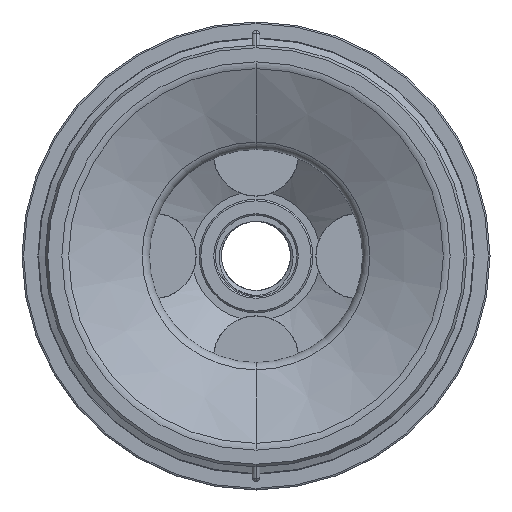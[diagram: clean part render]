
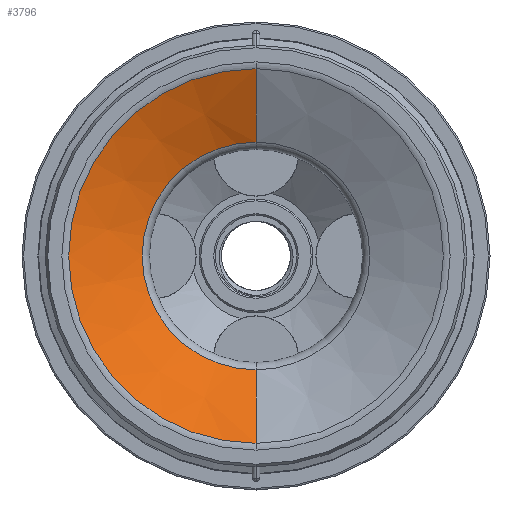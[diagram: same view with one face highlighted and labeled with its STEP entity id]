
A CAD part, front view. The second image highlights one B-rep face of the part: STEP entity #3796.
In plain terms, the highlighted conical face has half-angle 64.594 degrees and reference radius 23.482 mm.
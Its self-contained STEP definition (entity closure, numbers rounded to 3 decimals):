
#177 = LINE ( 'NONE', #3560, #5684 ) ;
#195 = VERTEX_POINT ( 'NONE', #5951 ) ;
#324 = EDGE_CURVE ( 'NONE', #4693, #7930, #177, .T. ) ;
#469 = EDGE_CURVE ( 'NONE', #633, #195, #2214, .T. ) ;
#633 = VERTEX_POINT ( 'NONE', #8502 ) ;
#915 = DIRECTION ( 'NONE',  ( 0., -0.429, -0.903 ) ) ;
#1521 = VECTOR ( 'NONE', #3000, 1000. ) ;
#1665 = DIRECTION ( 'NONE',  ( 0., 0., 1. ) ) ;
#1695 = CARTESIAN_POINT ( 'NONE',  ( 0., -35.149, 23.482 ) ) ;
#1744 = CARTESIAN_POINT ( 'NONE',  ( 0., -30.659, 0. ) ) ;
#2214 = LINE ( 'NONE', #1695, #1521 ) ;
#2865 = AXIS2_PLACEMENT_3D ( 'NONE', #6914, #4863, #1665 ) ;
#3000 = DIRECTION ( 'NONE',  ( 0., -0.429, 0.903 ) ) ;
#3560 = CARTESIAN_POINT ( 'NONE',  ( 0., -35.149, -23.482 ) ) ;
#3656 = DIRECTION ( 'NONE',  ( 0., 0., 1. ) ) ;
#3753 = CARTESIAN_POINT ( 'NONE',  ( 0., -35.149, 0. ) ) ;
#3796 = ADVANCED_FACE ( 'NONE', ( #5790 ), #4060, .F. ) ;
#4060 = CONICAL_SURFACE ( 'NONE', #7946, 23.482, 1.127 ) ;
#4343 = EDGE_LOOP ( 'NONE', ( #5036, #8254, #6714, #5837 ) ) ;
#4477 = DIRECTION ( 'NONE',  ( 0., 0., -1. ) ) ;
#4693 = VERTEX_POINT ( 'NONE', #6321 ) ;
#4863 = DIRECTION ( 'NONE',  ( 0., -1., 0. ) ) ;
#5036 = ORIENTED_EDGE ( 'NONE', *, *, #7688, .T. ) ;
#5684 = VECTOR ( 'NONE', #915, 1000. ) ;
#5790 = FACE_OUTER_BOUND ( 'NONE', #4343, .T. ) ;
#5837 = ORIENTED_EDGE ( 'NONE', *, *, #324, .F. ) ;
#5891 = AXIS2_PLACEMENT_3D ( 'NONE', #1744, #8251, #3656 ) ;
#5951 = CARTESIAN_POINT ( 'NONE',  ( 0., -34.96, 23.083 ) ) ;
#6031 = EDGE_CURVE ( 'NONE', #195, #7930, #7863, .T. ) ;
#6321 = CARTESIAN_POINT ( 'NONE',  ( 0., -30.659, -14.027 ) ) ;
#6403 = DIRECTION ( 'NONE',  ( 0., -1., 0. ) ) ;
#6714 = ORIENTED_EDGE ( 'NONE', *, *, #6031, .T. ) ;
#6914 = CARTESIAN_POINT ( 'NONE',  ( 0., -34.96, 0. ) ) ;
#7688 = EDGE_CURVE ( 'NONE', #4693, #633, #7826, .T. ) ;
#7826 = CIRCLE ( 'NONE', #5891, 14.027 ) ;
#7863 = CIRCLE ( 'NONE', #2865, 23.083 ) ;
#7903 = CARTESIAN_POINT ( 'NONE',  ( 0., -34.96, -23.083 ) ) ;
#7930 = VERTEX_POINT ( 'NONE', #7903 ) ;
#7946 = AXIS2_PLACEMENT_3D ( 'NONE', #3753, #6403, #4477 ) ;
#8251 = DIRECTION ( 'NONE',  ( 0., 1., 0. ) ) ;
#8254 = ORIENTED_EDGE ( 'NONE', *, *, #469, .T. ) ;
#8502 = CARTESIAN_POINT ( 'NONE',  ( 0., -30.659, 14.027 ) ) ;
